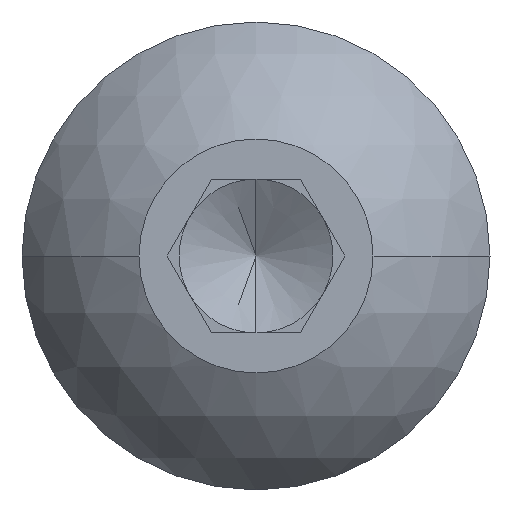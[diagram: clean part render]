
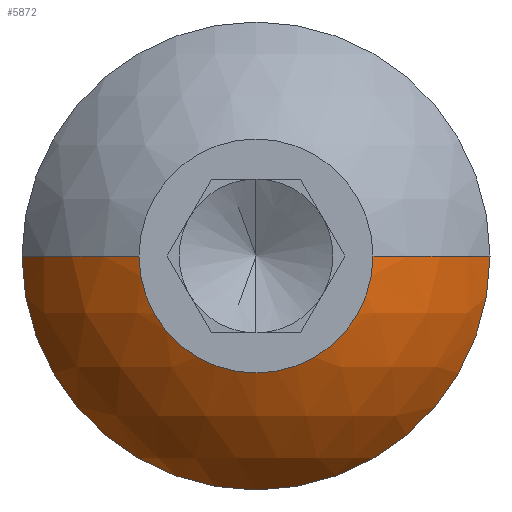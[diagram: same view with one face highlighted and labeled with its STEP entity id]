
A CAD part, left-side view. The second image highlights one B-rep face of the part: STEP entity #5872.
In plain terms, the highlighted spherical face has radius 4.325 mm.
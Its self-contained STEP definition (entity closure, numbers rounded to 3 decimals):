
#61 = DIRECTION ( 'NONE',  ( 0., 1., 0. ) ) ;
#187 = EDGE_CURVE ( 'NONE', #9180, #4432, #1792, .T. ) ;
#830 = DIRECTION ( 'NONE',  ( 0., 0., -1. ) ) ;
#883 = AXIS2_PLACEMENT_3D ( 'NONE', #5901, #830, #61 ) ;
#946 = EDGE_CURVE ( 'NONE', #3988, #4432, #4985, .T. ) ;
#1180 = CIRCLE ( 'NONE', #7152, 3.8 ) ;
#1223 = EDGE_CURVE ( 'NONE', #6794, #4879, #3295, .T. ) ;
#1656 = AXIS2_PLACEMENT_3D ( 'NONE', #7545, #4743, #9220 ) ;
#1728 = FACE_OUTER_BOUND ( 'NONE', #1890, .T. ) ;
#1792 = CIRCLE ( 'NONE', #7919, 1.9 ) ;
#1853 = DIRECTION ( 'NONE',  ( 1., 0., 0. ) ) ;
#1890 = EDGE_LOOP ( 'NONE', ( #3426, #6698, #8623, #4075, #7369 ) ) ;
#2808 = EDGE_CURVE ( 'NONE', #4879, #3988, #1180, .T. ) ;
#2870 = CARTESIAN_POINT ( 'NONE',  ( 1.82, 0., -3.8 ) ) ;
#2889 = EDGE_CURVE ( 'NONE', #6794, #9180, #3177, .T. ) ;
#2984 = CARTESIAN_POINT ( 'NONE',  ( 0., -1.9, 0. ) ) ;
#3177 = CIRCLE ( 'NONE', #6549, 4.325 ) ;
#3295 = CIRCLE ( 'NONE', #1656, 3.8 ) ;
#3426 = ORIENTED_EDGE ( 'NONE', *, *, #1223, .T. ) ;
#3649 = AXIS2_PLACEMENT_3D ( 'NONE', #3735, #4410, #7443 ) ;
#3735 = CARTESIAN_POINT ( 'NONE',  ( 3.885, 0., 0. ) ) ;
#3891 = SPHERICAL_SURFACE ( 'NONE', #3649, 4.325 ) ;
#3988 = VERTEX_POINT ( 'NONE', #5834 ) ;
#4075 = ORIENTED_EDGE ( 'NONE', *, *, #187, .F. ) ;
#4410 = DIRECTION ( 'NONE',  ( 0., 0., -1. ) ) ;
#4432 = VERTEX_POINT ( 'NONE', #2984 ) ;
#4506 = DIRECTION ( 'NONE',  ( -1., 0., 0. ) ) ;
#4743 = DIRECTION ( 'NONE',  ( -1., 0., 0. ) ) ;
#4879 = VERTEX_POINT ( 'NONE', #2870 ) ;
#4887 = CARTESIAN_POINT ( 'NONE',  ( 0., 0., 0. ) ) ;
#4985 = CIRCLE ( 'NONE', #883, 4.325 ) ;
#5215 = CARTESIAN_POINT ( 'NONE',  ( 3.885, 0., 0. ) ) ;
#5417 = DIRECTION ( 'NONE',  ( 0., 0., 1. ) ) ;
#5834 = CARTESIAN_POINT ( 'NONE',  ( 1.82, -3.8, 0. ) ) ;
#5872 = ADVANCED_FACE ( 'NONE', ( #1728 ), #3891, .T. ) ;
#5901 = CARTESIAN_POINT ( 'NONE',  ( 3.885, 0., 0. ) ) ;
#6116 = DIRECTION ( 'NONE',  ( 0., 0., 1. ) ) ;
#6549 = AXIS2_PLACEMENT_3D ( 'NONE', #5215, #6116, #1853 ) ;
#6698 = ORIENTED_EDGE ( 'NONE', *, *, #2808, .T. ) ;
#6794 = VERTEX_POINT ( 'NONE', #9385 ) ;
#7152 = AXIS2_PLACEMENT_3D ( 'NONE', #9142, #4506, #7701 ) ;
#7369 = ORIENTED_EDGE ( 'NONE', *, *, #2889, .F. ) ;
#7443 = DIRECTION ( 'NONE',  ( 0., 1., 0. ) ) ;
#7545 = CARTESIAN_POINT ( 'NONE',  ( 1.82, 0., 0. ) ) ;
#7701 = DIRECTION ( 'NONE',  ( 0., 0., 1. ) ) ;
#7703 = CARTESIAN_POINT ( 'NONE',  ( 0., 1.9, 0. ) ) ;
#7730 = DIRECTION ( 'NONE',  ( -1., 0., 0. ) ) ;
#7919 = AXIS2_PLACEMENT_3D ( 'NONE', #4887, #7730, #5417 ) ;
#8623 = ORIENTED_EDGE ( 'NONE', *, *, #946, .T. ) ;
#9142 = CARTESIAN_POINT ( 'NONE',  ( 1.82, 0., 0. ) ) ;
#9180 = VERTEX_POINT ( 'NONE', #7703 ) ;
#9220 = DIRECTION ( 'NONE',  ( 0., 0., 1. ) ) ;
#9385 = CARTESIAN_POINT ( 'NONE',  ( 1.82, 3.8, 0. ) ) ;
